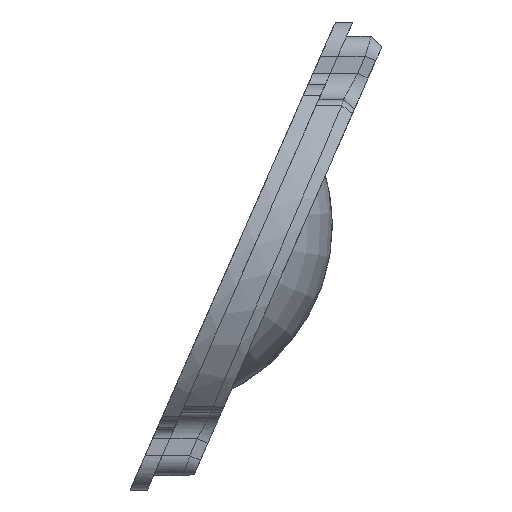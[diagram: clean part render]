
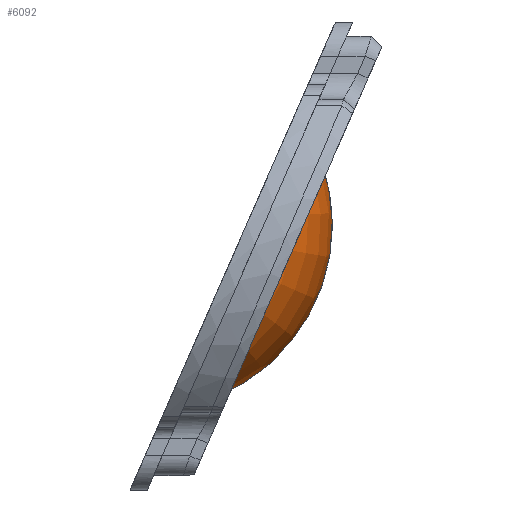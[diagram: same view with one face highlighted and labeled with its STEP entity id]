
A CAD part, left-side view. The second image highlights one B-rep face of the part: STEP entity #6092.
In plain terms, the highlighted toroidal (fillet/blend) face has major radius 2.054 mm and minor radius 14.196 mm.
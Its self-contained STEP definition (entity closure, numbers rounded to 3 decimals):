
#582 = FACE_OUTER_BOUND ( 'NONE', #9262, .T. ) ;
#656 = DIRECTION ( 'NONE',  ( 0., 0., 1. ) ) ;
#776 = CARTESIAN_POINT ( 'NONE',  ( -12.924, 20.954, -12.423 ) ) ;
#840 = EDGE_CURVE ( 'NONE', #10121, #13094, #4044, .T. ) ;
#920 = CARTESIAN_POINT ( 'NONE',  ( -19.156, 18.597, -7.055 ) ) ;
#1502 = CARTESIAN_POINT ( 'NONE',  ( -15.465, 11.553, 8.991 ) ) ;
#1650 = CARTESIAN_POINT ( 'NONE',  ( -17.566, 12.351, 7.173 ) ) ;
#2383 = CARTESIAN_POINT ( 'NONE',  ( -9.797, 21.276, -13.156 ) ) ;
#2509 = CARTESIAN_POINT ( 'NONE',  ( -15.187, 20.458, -11.293 ) ) ;
#2612 = CARTESIAN_POINT ( 'NONE',  ( -8.5, 10.626, 11.102 ) ) ;
#3241 = CARTESIAN_POINT ( 'NONE',  ( -15.202, 11.477, 9.164 ) ) ;
#3316 = CARTESIAN_POINT ( 'NONE',  ( -10.766, 10.714, 10.902 ) ) ;
#3395 = CARTESIAN_POINT ( 'NONE',  ( -12.024, 10.844, 10.605 ) ) ;
#3990 = CARTESIAN_POINT ( 'NONE',  ( -8.5, 24.545, 2.716 ) ) ;
#4044 = B_SPLINE_CURVE_WITH_KNOTS ( 'NONE', 3,
 ( #20930, #13931, #6585, #6662, #18864, #1650, #19011, #11930, #8346, #1502, #3241, #15492, #6744, #8486, #22564, #3395, #12002, #20847, #3316, #10314, #15568, #5078 ),
 .UNSPECIFIED., .F., .F.,
 ( 4, 2, 2, 2, 2, 2, 2, 2, 2, 2, 4 ),
 ( 0., 0.004, 0.005, 0.006, 0.008, 0.009, 0.01, 0.012, 0.013, 0.014, 0.015 ),
 .UNSPECIFIED. ) ;
#4829 = CIRCLE ( 'NONE', #19466, 16.25 ) ;
#4892 = B_SPLINE_CURVE_WITH_KNOTS ( 'NONE', 3,
 ( #18054, #16590, #2383, #7552, #11037, #776, #19889, #5789, #2509, #19808, #6088, #18283, #5873, #21898, #9447, #11335, #920, #19966, #12886, #5952 ),
 .UNSPECIFIED., .F., .F.,
 ( 4, 2, 2, 2, 2, 2, 2, 2, 2, 4 ),
 ( 0., 0.002, 0.004, 0.006, 0.008, 0.01, 0.012, 0.013, 0.014, 0.015 ),
 .UNSPECIFIED. ) ;
#5078 = CARTESIAN_POINT ( 'NONE',  ( -8.5, 10.626, 11.102 ) ) ;
#5789 = CARTESIAN_POINT ( 'NONE',  ( -14.647, 20.6, -11.617 ) ) ;
#5873 = CARTESIAN_POINT ( 'NONE',  ( -17.97, 19.376, -8.829 ) ) ;
#5952 = CARTESIAN_POINT ( 'NONE',  ( -20., 17.752, -5.13 ) ) ;
#6088 = CARTESIAN_POINT ( 'NONE',  ( -16.692, 19.959, -10.157 ) ) ;
#6092 = ADVANCED_FACE ( 'NONE', ( #582 ), #12852, .T. ) ;
#6585 = CARTESIAN_POINT ( 'NONE',  ( -19.065, 13.203, 5.233 ) ) ;
#6662 = CARTESIAN_POINT ( 'NONE',  ( -18.162, 12.662, 6.464 ) ) ;
#6744 = CARTESIAN_POINT ( 'NONE',  ( -14.378, 11.265, 9.647 ) ) ;
#6755 = AXIS2_PLACEMENT_3D ( 'NONE', #7800, #8014, #18377 ) ;
#7424 = DIRECTION ( 'NONE',  ( -1., 0., 0. ) ) ;
#7497 = DIRECTION ( 'NONE',  ( 0., 0., 1. ) ) ;
#7552 = CARTESIAN_POINT ( 'NONE',  ( -11.066, 21.19, -12.96 ) ) ;
#7800 = CARTESIAN_POINT ( 'NONE',  ( -20., 24.545, 2.716 ) ) ;
#8014 = DIRECTION ( 'NONE',  ( -1., 0., 0. ) ) ;
#8346 = CARTESIAN_POINT ( 'NONE',  ( -16.226, 11.792, 8.446 ) ) ;
#8486 = CARTESIAN_POINT ( 'NONE',  ( -13.525, 11.077, 10.074 ) ) ;
#9262 = EDGE_LOOP ( 'NONE', ( #9388, #22676, #17052, #18071 ) ) ;
#9388 = ORIENTED_EDGE ( 'NONE', *, *, #13450, .F. ) ;
#9447 = CARTESIAN_POINT ( 'NONE',  ( -18.687, 18.939, -7.833 ) ) ;
#10121 = VERTEX_POINT ( 'NONE', #16347 ) ;
#10314 = CARTESIAN_POINT ( 'NONE',  ( -9.802, 10.648, 11.052 ) ) ;
#11037 = CARTESIAN_POINT ( 'NONE',  ( -11.692, 21.126, -12.814 ) ) ;
#11260 = CIRCLE ( 'NONE', #6755, 10.378 ) ;
#11335 = CARTESIAN_POINT ( 'NONE',  ( -19.007, 18.712, -7.317 ) ) ;
#11930 = CARTESIAN_POINT ( 'NONE',  ( -16.698, 11.967, 8.047 ) ) ;
#12002 = CARTESIAN_POINT ( 'NONE',  ( -11.715, 10.806, 10.691 ) ) ;
#12852 = TOROIDAL_SURFACE ( 'NONE', #19275, 2.054, 14.196 ) ;
#12886 = CARTESIAN_POINT ( 'NONE',  ( -19.807, 18.002, -5.7 ) ) ;
#13077 = EDGE_CURVE ( 'NONE', #18919, #10121, #11260, .T. ) ;
#13094 = VERTEX_POINT ( 'NONE', #2612 ) ;
#13450 = EDGE_CURVE ( 'NONE', #18981, #18919, #4892, .T. ) ;
#13931 = CARTESIAN_POINT ( 'NONE',  ( -19.613, 13.671, 4.166 ) ) ;
#15492 = CARTESIAN_POINT ( 'NONE',  ( -14.659, 11.333, 9.492 ) ) ;
#15568 = CARTESIAN_POINT ( 'NONE',  ( -9.154, 10.626, 11.102 ) ) ;
#15870 = CARTESIAN_POINT ( 'NONE',  ( -20., 17.752, -5.13 ) ) ;
#16174 = CARTESIAN_POINT ( 'NONE',  ( -8.5, 21.298, -13.206 ) ) ;
#16347 = CARTESIAN_POINT ( 'NONE',  ( -20., 14.172, 3.025 ) ) ;
#16590 = CARTESIAN_POINT ( 'NONE',  ( -9.153, 21.298, -13.206 ) ) ;
#17052 = ORIENTED_EDGE ( 'NONE', *, *, #840, .F. ) ;
#18054 = CARTESIAN_POINT ( 'NONE',  ( -8.5, 21.298, -13.206 ) ) ;
#18071 = ORIENTED_EDGE ( 'NONE', *, *, #13077, .F. ) ;
#18283 = CARTESIAN_POINT ( 'NONE',  ( -17.569, 19.579, -9.292 ) ) ;
#18377 = DIRECTION ( 'NONE',  ( 0., 0., 1. ) ) ;
#18864 = CARTESIAN_POINT ( 'NONE',  ( -17.969, 12.556, 6.706 ) ) ;
#18919 = VERTEX_POINT ( 'NONE', #15870 ) ;
#18981 = VERTEX_POINT ( 'NONE', #16174 ) ;
#19011 = CARTESIAN_POINT ( 'NONE',  ( -17.355, 12.252, 7.398 ) ) ;
#19275 = AXIS2_PLACEMENT_3D ( 'NONE', #3990, #7424, #656 ) ;
#19466 = AXIS2_PLACEMENT_3D ( 'NONE', #19684, #19838, #7497 ) ;
#19684 = CARTESIAN_POINT ( 'NONE',  ( -8.5, 24.545, 2.716 ) ) ;
#19808 = CARTESIAN_POINT ( 'NONE',  ( -16.215, 20.136, -10.559 ) ) ;
#19838 = DIRECTION ( 'NONE',  ( -1., 0., 0. ) ) ;
#19889 = CARTESIAN_POINT ( 'NONE',  ( -13.516, 20.848, -12.182 ) ) ;
#19966 = CARTESIAN_POINT ( 'NONE',  ( -19.572, 18.245, -6.253 ) ) ;
#20847 = CARTESIAN_POINT ( 'NONE',  ( -11.086, 10.741, 10.839 ) ) ;
#20930 = CARTESIAN_POINT ( 'NONE',  ( -20., 14.172, 3.025 ) ) ;
#20968 = EDGE_CURVE ( 'NONE', #18981, #13094, #4829, .T. ) ;
#21898 = CARTESIAN_POINT ( 'NONE',  ( -18.515, 19.051, -8.088 ) ) ;
#22564 = CARTESIAN_POINT ( 'NONE',  ( -12.936, 10.972, 10.313 ) ) ;
#22676 = ORIENTED_EDGE ( 'NONE', *, *, #20968, .T. ) ;
